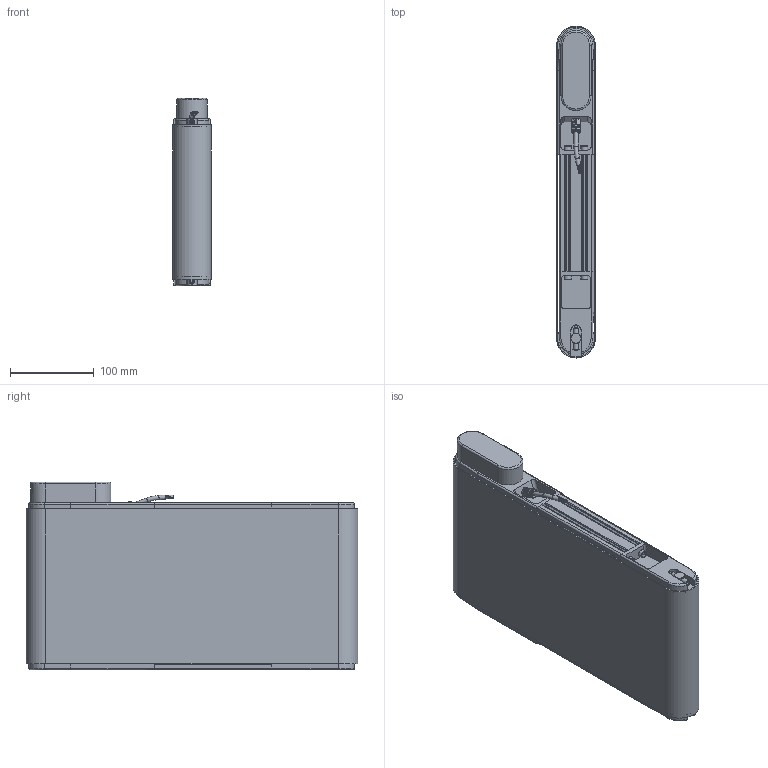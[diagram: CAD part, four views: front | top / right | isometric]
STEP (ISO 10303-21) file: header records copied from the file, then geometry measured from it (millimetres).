
FILE_DESCRIPTION(/* description */ (''),/* implementation_level */ '2;1');
FILE_NAME(/* name */ 'G:\DATEN\CAD\Förderband\Marketing\3D-Modelle (Standard)\FR-40-200-Q\FR-40-200-Q-350-K.stp',/* time_stamp */ '2019-05-09T10:08:33+02:00',/* author */ ('melanie.ochs'),/* organization */ (''),/* preprocessor_version */ 'ST-DEVELOPER v17',/* originating_system */ 'Autodesk Inventor 2019',/* authorisation */ '');
FILE_SCHEMA (('CONFIG_CONTROL_DESIGN'));
Length unit declared in the file: centimetre
Products named in the file (1): FR-40-200-Q-350-K
Bounding box: 46.6 x 396.6 x 224.5 mm (x, y, z)
Volume: 2254131.6 mm3; surface area: 464779.2 mm2
Topology: 6 solids, 25 shells, 924 faces, 2504 edges, 1671 vertices
Faces by surface type: plane 473, cylinder 291, cone 70, bspline 61, torus 29
Full cylindrical faces by diameter (mm): 1 x6, 3 x1, 4 x12, 4.3 x4, 4.917 x3, 5 x11, 5.5 x8, 6 x4, 6.5 x1, 6.773 x1, 6.917 x3, 8 x4, 8.3 x4, 8.5 x8, 8.773 x1, 10 x2, 11 x1, 12 x6, 25 x2, 28 x2, 28.01 x2, 30 x1
Entity records: 31084 total; most frequent: CARTESIAN_POINT 6835, ORIENTED_EDGE 4964, DIRECTION 4769, EDGE_CURVE 2482, AXIS2_PLACEMENT_3D 1714, VERTEX_POINT 1670, LINE 1341, VECTOR 1341
